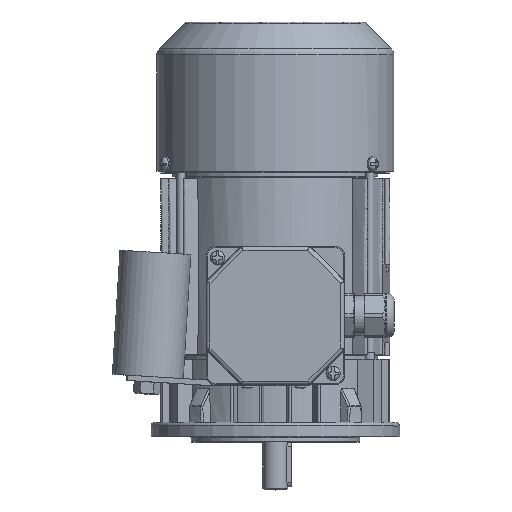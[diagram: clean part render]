
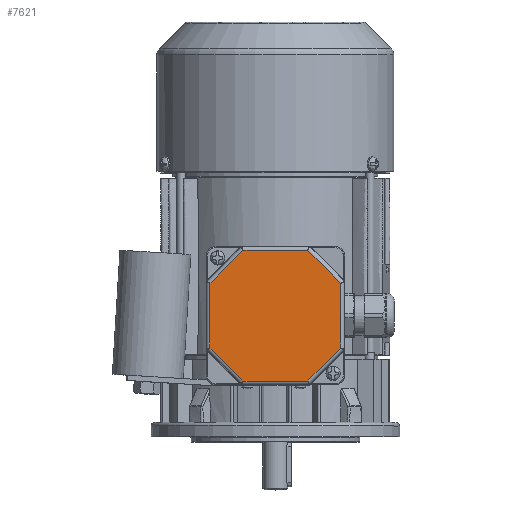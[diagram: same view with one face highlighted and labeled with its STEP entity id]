
A CAD part, top view. The second image highlights one B-rep face of the part: STEP entity #7621.
In plain terms, the highlighted planar face has unit normal (0, 0, 1).
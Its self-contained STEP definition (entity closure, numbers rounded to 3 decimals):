
#7621 = ADVANCED_FACE( '', ( #15262 ), #15263, .T. );
#15262 = FACE_OUTER_BOUND( '', #54175, .T. );
#15263 = PLANE( '', #54176 );
#54175 = EDGE_LOOP( '', ( #75413, #75414, #75415, #75416, #75417, #75418, #75419, #75420 ) );
#54176 = AXIS2_PLACEMENT_3D( '', #75421, #75422, #75423 );
#75413 = ORIENTED_EDGE( '', *, *, #84733, .T. );
#75414 = ORIENTED_EDGE( '', *, *, #77168, .T. );
#75415 = ORIENTED_EDGE( '', *, *, #79796, .T. );
#75416 = ORIENTED_EDGE( '', *, *, #79762, .T. );
#75417 = ORIENTED_EDGE( '', *, *, #80224, .T. );
#75418 = ORIENTED_EDGE( '', *, *, #78619, .T. );
#75419 = ORIENTED_EDGE( '', *, *, #81226, .T. );
#75420 = ORIENTED_EDGE( '', *, *, #84283, .T. );
#75421 = CARTESIAN_POINT( '', ( -39., 39., 12. ) );
#75422 = DIRECTION( '', ( 0., 0., 1. ) );
#75423 = DIRECTION( '', ( 1., 0., 0. ) );
#77168 = EDGE_CURVE( '', #86242, #86243, #86244, .T. );
#78619 = EDGE_CURVE( '', #88733, #85818, #88734, .T. );
#79762 = EDGE_CURVE( '', #90640, #90641, #90642, .T. );
#79796 = EDGE_CURVE( '', #86243, #90640, #90697, .F. );
#80224 = EDGE_CURVE( '', #90641, #88733, #91337, .F. );
#81226 = EDGE_CURVE( '', #85818, #92821, #92822, .F. );
#84283 = EDGE_CURVE( '', #92821, #95452, #96711, .T. );
#84733 = EDGE_CURVE( '', #95452, #86242, #97181, .F. );
#85818 = VERTEX_POINT( '', #100084 );
#86242 = VERTEX_POINT( '', #101705 );
#86243 = VERTEX_POINT( '', #101706 );
#86244 = LINE( '', #101707, #101708 );
#88733 = VERTEX_POINT( '', #110444 );
#88734 = LINE( '', #110445, #110446 );
#90640 = VERTEX_POINT( '', #115733 );
#90641 = VERTEX_POINT( '', #115734 );
#90642 = LINE( '', #115735, #115736 );
#90697 = LINE( '', #115968, #115969 );
#91337 = LINE( '', #118149, #118150 );
#92821 = VERTEX_POINT( '', #123875 );
#92822 = LINE( '', #123876, #123877 );
#95452 = VERTEX_POINT( '', #133630 );
#96711 = LINE( '', #137620, #137621 );
#97181 = LINE( '', #139213, #139214 );
#100084 = CARTESIAN_POINT( '', ( -18.255, -36.825, 12. ) );
#101705 = CARTESIAN_POINT( '', ( 36.825, 18.255, 12. ) );
#101706 = CARTESIAN_POINT( '', ( 18.255, 36.825, 12. ) );
#101707 = CARTESIAN_POINT( '', ( 17.679, 37.401, 12. ) );
#101708 = VECTOR( '', #140332, 1000. );
#110444 = CARTESIAN_POINT( '', ( -36.825, -18.255, 12. ) );
#110445 = CARTESIAN_POINT( '', ( -17.679, -37.401, 12. ) );
#110446 = VECTOR( '', #142041, 1000. );
#115733 = CARTESIAN_POINT( '', ( -18.255, 36.825, 12. ) );
#115734 = CARTESIAN_POINT( '', ( -36.825, 18.255, 12. ) );
#115735 = CARTESIAN_POINT( '', ( -37.401, 17.679, 12. ) );
#115736 = VECTOR( '', #143706, 1000. );
#115968 = CARTESIAN_POINT( '', ( -19.069, 36.825, 12. ) );
#115969 = VECTOR( '', #143745, 1000. );
#118149 = CARTESIAN_POINT( '', ( -36.825, -19.069, 12. ) );
#118150 = VECTOR( '', #144190, 1000. );
#123875 = CARTESIAN_POINT( '', ( 18.255, -36.825, 12. ) );
#123876 = CARTESIAN_POINT( '', ( 19.069, -36.825, 12. ) );
#123877 = VECTOR( '', #145194, 1000. );
#133630 = CARTESIAN_POINT( '', ( 36.825, -18.255, 12. ) );
#137620 = CARTESIAN_POINT( '', ( 37.401, -17.679, 12. ) );
#137621 = VECTOR( '', #148129, 1000. );
#139213 = CARTESIAN_POINT( '', ( 36.825, 19.069, 12. ) );
#139214 = VECTOR( '', #148363, 1000. );
#140332 = DIRECTION( '', ( -0.707, 0.707, 0. ) );
#142041 = DIRECTION( '', ( 0.707, -0.707, 0. ) );
#143706 = DIRECTION( '', ( -0.707, -0.707, 0. ) );
#143745 = DIRECTION( '', ( 1., 0., 0. ) );
#144190 = DIRECTION( '', ( 0., 1., 0. ) );
#145194 = DIRECTION( '', ( -1., 0., 0. ) );
#148129 = DIRECTION( '', ( 0.707, 0.707, 0. ) );
#148363 = DIRECTION( '', ( 0., -1., 0. ) );
